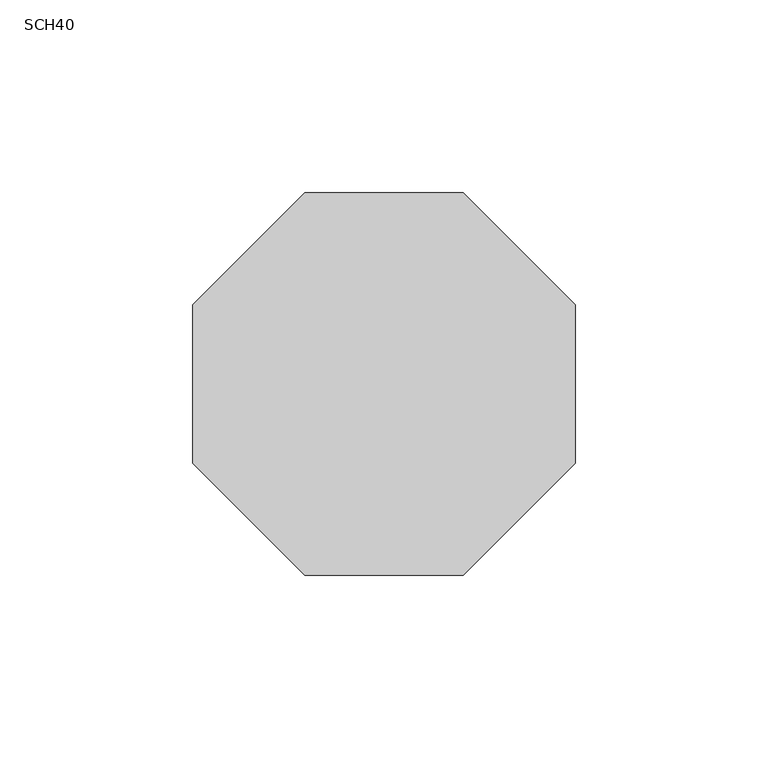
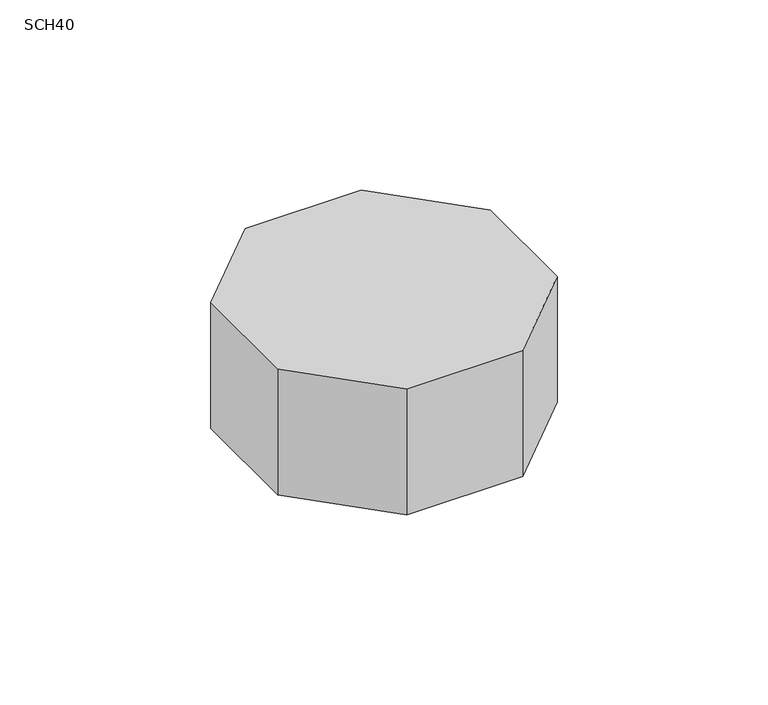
"""IFC4 building model written with IfcOpenShell, lengths in millimetres: cable carrier fitting geometry, PavcoWavin_ConduitFittings_CajaOctagonal_Codo : SCH40."""

from ifc_helpers import new_model, si_unit, frame, origin, place, context, project, spatial, polyline, outline, extrude, source, transform, mapped, element, save


def sch40_529ea7d7(model_context):
    return source(origin(), model_context, "Body", "SweptSolid", [
        extrude(outline(polyline([(-49.5, 20.5035713), (-20.5035713, 49.5), (20.5035713, 49.5), (49.5, 20.5035713), (49.5, -20.5035713), (20.5035713, -49.5), (-20.5035713, -49.5), (-49.5, -20.5035713), (-49.5, 20.5035713)])), frame((0.0, 0.0, -23.5), z_axis=(0.0, 0.0, 1.0), x_axis=(1.0, 0.0, 0.0)), (0.0, 0.0, 1.0), 47.0),
    ])


if __name__ == "__main__":
    model = new_model("IFC4")
    model_context = context("Model", 3, world=origin())
    ifc_project = project(units=[si_unit("LENGTHUNIT", "METRE", prefix="MILLI")], contexts=[model_context])
    site = spatial("IfcSite", under=ifc_project)
    building = spatial("IfcBuilding", under=site)
    placement = place(None, origin())
    sch40_shape = sch40_529ea7d7(model_context)
    element("IfcCableCarrierFitting", 1, ObjectType="PavcoWavin_ConduitFittings_CajaOctagonal_Codo : SCH40", at=placement, inside=building, context=model_context, shape_type="MappedRepresentation", body=[
        mapped(sch40_shape, transform((0.0, 0.0, 0.0), x_axis=(1.0, 0.0, 0.0), y_axis=(0.0, 1.0, 0.0), z_axis=(0.0, 0.0, 1.0))),
    ])
    save(model, "model.ifc")
